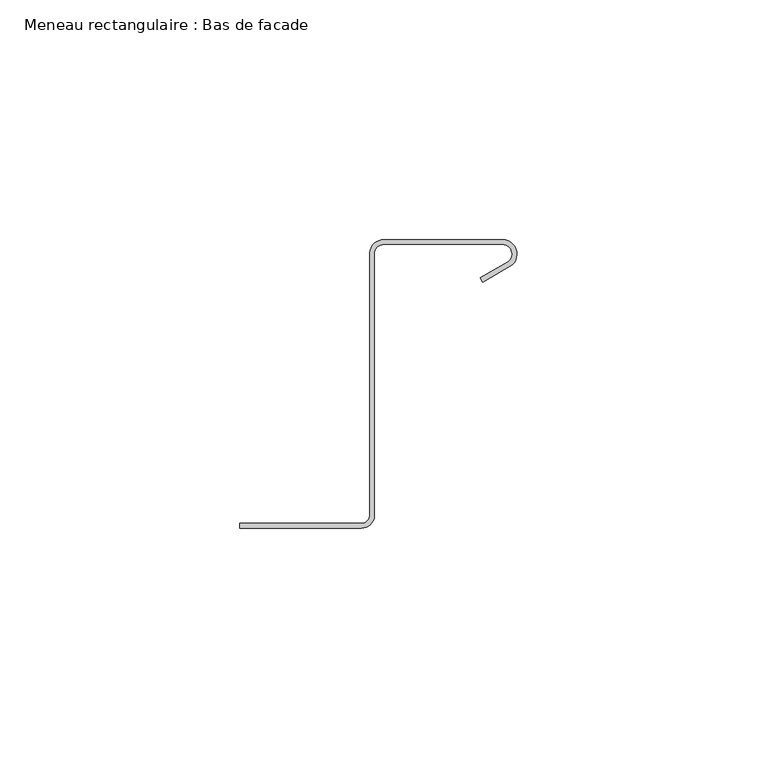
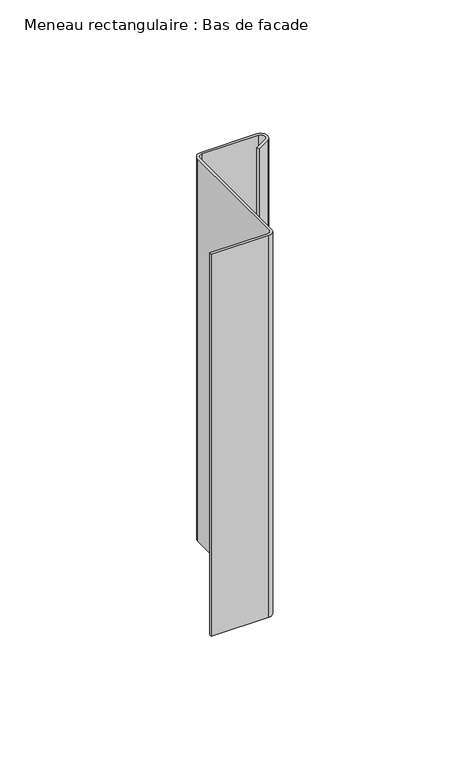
"""IFC4 building model written with IfcOpenShell, lengths in millimetres: member geometry, Meneau rectangulaire : Bas de facade."""

from ifc_helpers import new_model, si_unit, point, frame, frame_2d, origin, place, context, project, spatial, polyline, circle_curve, trimmed, segment, composite_curve, outline, extrude, source, transform, mapped, element, save


def meneau_rectangulaire_bas_de_facade_46bd9526(model_context):
    return source(origin(), model_context, "Body", "SweptSolid", [
        extrude(outline(composite_curve([segment(polyline([(-32.4584179, -2.9588923), (-57.8548383, -2.9588923), (-57.8548383, -1.9588923), (-32.4584179, -1.9588923)]), True, "CONTINUOUS"), segment(trimmed(circle_curve(frame_2d((-32.4584179, -0.2088923)), 1.75), [point((-32.4584179, -1.9588923))], [point((-30.7239521, -0.4415475))], True, "CARTESIAN"), True, "CONTINUOUS"), segment(polyline([(-30.7239521, -0.4415475), (-30.7239521, 54.522067)]), True, "CONTINUOUS"), segment(trimmed(circle_curve(frame_2d((-27.735368, 54.2605998)), 3.0), [point((-30.7239521, 54.522067))], [point((-27.735368, 57.2605998))], False, "CARTESIAN"), True, "CONTINUOUS"), segment(polyline([(-27.735368, 57.2605998), (-3.0, 57.2605998)]), True, "CONTINUOUS"), segment(trimmed(circle_curve(frame_2d((-3.0, 54.2605998)), 3.0), [point((-3.0, 57.2605998))], [point((-1.5, 51.6625235))], False, "CARTESIAN"), True, "CONTINUOUS"), segment(polyline([(-1.5, 51.6625235), (-7.1638061, 48.3925235), (-7.6638061, 49.258549), (-2.0, 52.528549)]), True, "CONTINUOUS"), segment(trimmed(circle_curve(frame_2d((-3.0, 54.2605998)), 2.0), [point((-2.0, 52.528549))], [point((-3.0, 56.2605998))], True, "CARTESIAN"), True, "CONTINUOUS"), segment(polyline([(-3.0, 56.2605998), (-27.735368, 56.2605998)]), True, "CONTINUOUS"), segment(trimmed(circle_curve(frame_2d((-27.735368, 54.2605998)), 2.0), [point((-27.735368, 56.2605998))], [point((-29.7143802, 54.5495817))], True, "CARTESIAN"), True, "CONTINUOUS"), segment(polyline([(-29.7143802, 54.5495817), (-29.7143802, -0.3898824)]), True, "CONTINUOUS"), segment(trimmed(circle_curve(frame_2d((-32.4584179, -0.2088923)), 2.75), [point((-29.7143802, -0.3898824))], [point((-32.4584179, -2.9588923))], False, "CARTESIAN"), True, "CONTINUOUS")], self_intersect=False)), frame((0.0, 0.0, -177.0173445), z_axis=(0.0, 0.0, 1.0), x_axis=(1.0, 0.0, 0.0)), (0.0, 0.0, 1.0), 177.0173445),
    ])


if __name__ == "__main__":
    model = new_model("IFC4")
    model_context = context("Model", 3, world=origin())
    ifc_project = project(units=[si_unit("LENGTHUNIT", "METRE", prefix="MILLI")], contexts=[model_context])
    site = spatial("IfcSite", under=ifc_project)
    building = spatial("IfcBuilding", under=site)
    placement = place(None, origin())
    meneau_rectangulaire_bas_de_facade_shape = meneau_rectangulaire_bas_de_facade_46bd9526(model_context)
    element("IfcMember", 1, ObjectType="Meneau rectangulaire : Bas de facade", at=placement, inside=building, context=model_context, shape_type="MappedRepresentation", body=[
        mapped(meneau_rectangulaire_bas_de_facade_shape, transform((0.0, 0.0, 0.0), x_axis=(1.0, 0.0, 0.0), y_axis=(0.0, 1.0, 0.0), z_axis=(0.0, 0.0, 1.0))),
    ])
    save(model, "model.ifc")
